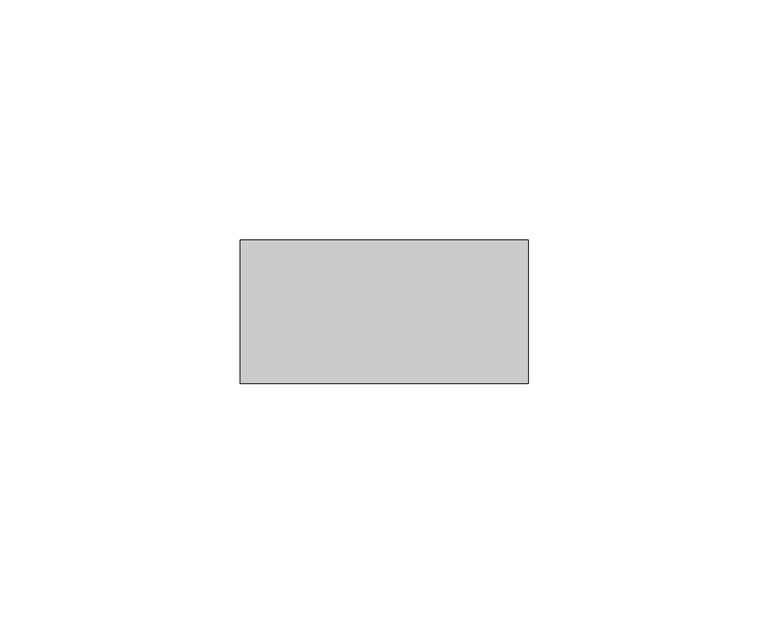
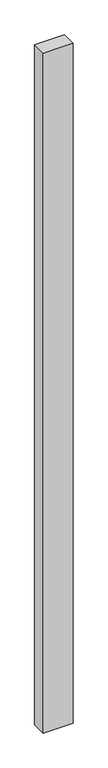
"""IFC4 building model written with IfcOpenShell, lengths in millimetres: member geometry, Прямоугольный импост : Квадрат 30 мм."""

from ifc_helpers import new_model, si_unit, frame, origin, place, context, project, spatial, polyline, outline, extrude, source, transform, mapped, element, save


def member_574df826(model_context):
    return source(origin(), model_context, "Body", "SweptSolid", [
        extrude(outline(polyline([(30.0, 15.0), (30.0, -15.0), (-30.0, -15.0), (-30.0, 15.0), (30.0, 15.0)])), frame((0.0, 0.0, -1450.0), z_axis=(0.0, 0.0, 1.0), x_axis=(1.0, 0.0, 0.0)), (0.0, 0.0, 1.0), 1450.0),
    ])


if __name__ == "__main__":
    model = new_model("IFC4")
    model_context = context("Model", 3, world=origin())
    ifc_project = project(units=[si_unit("LENGTHUNIT", "METRE", prefix="MILLI")], contexts=[model_context])
    site = spatial("IfcSite", under=ifc_project)
    building = spatial("IfcBuilding", under=site)
    placement = place(None, origin())
    member_shape = member_574df826(model_context)
    element("IfcMember", 1, ObjectType="Прямоугольный импост : Квадрат 30 мм", at=placement, inside=building, context=model_context, shape_type="MappedRepresentation", body=[
        mapped(member_shape, transform((0.0, 0.0, 0.0), x_axis=(1.0, 0.0, 0.0), y_axis=(0.0, 1.0, 0.0), z_axis=(0.0, 0.0, 1.0))),
    ])
    save(model, "model.ifc")
